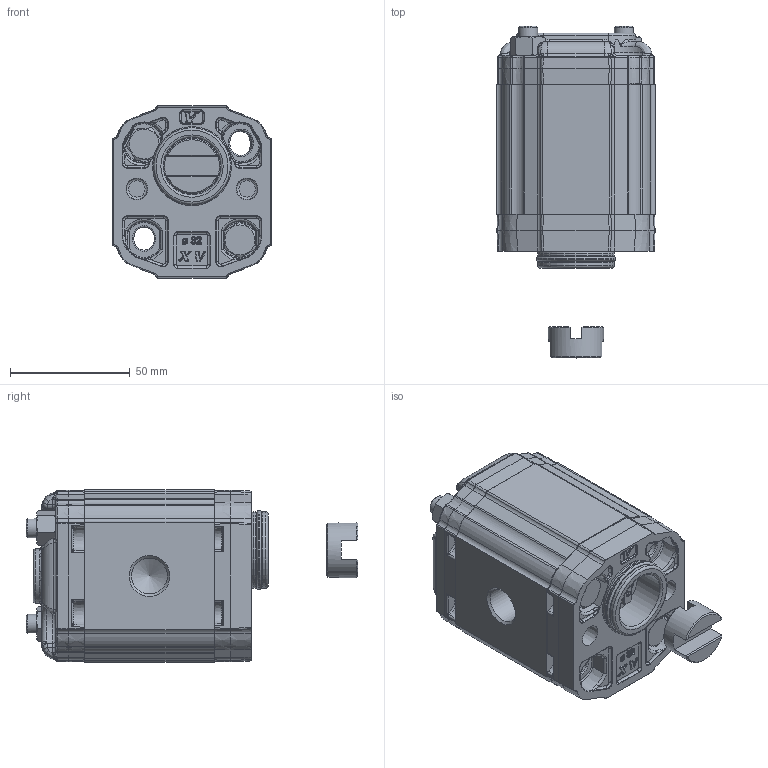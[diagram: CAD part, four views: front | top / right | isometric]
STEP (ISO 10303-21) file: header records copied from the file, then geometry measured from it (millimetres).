
FILE_DESCRIPTION(/* description */ ('Unknown'),/* implementation_level */ '2;1');
FILE_NAME(/* name */ 'X1P2732CBBA',/* time_stamp */ '2026-05-26T18:32:48+02:00',/* author */ ('Unknown'),/* organization */ ('Unknown'),/* preprocessor_version */ 'ST-DEVELOPER v16.7',/* originating_system */ 'Solid Edge',/* authorisation */ 'Unknown');
FILE_SCHEMA (('AUTOMOTIVE_DESIGN {1 0 10303 214 3 1 1}'));
Products named in the file (5): X1P2732CBBA; X1P32; 1C; X1BBH54; XP161-A
Assembly tree (4 placements, depth 2):
  X1P2732CBBA
    X1P32
    1C
    X1BBH54
    XP161-A
Bounding box: 66 x 138.49 x 72 mm (x, y, z)
Volume: 340098.8 mm3; surface area: 67708 mm2
Topology: 5 solids, 6 shells, 2571 faces, 6088 edges, 3567 vertices
Faces by surface type: cylinder 753, bspline 645, plane 567, torus 272, cone 249, sphere 85
Full cylindrical faces by diameter (mm): 1.5 x1, 3.65 x2, 8 x6, 8.5 x3, 9 x2, 10.5 x2, 11.965 x1, 12 x1, 13.107 x1, 14.692 x1, 14.95 x2, 17.135 x1, 19.02 x2, 23 x1, 24 x1, 29.4 x2, 32 x2, 32.96 x1
Entity records: 138657 total; most frequent: CARTESIAN_POINT 65595, ORIENTED_EDGE 11764, DIRECTION 11024, EDGE_CURVE 5882, AXIS2_PLACEMENT_3D 4548, VERTEX_POINT 3518, FACE_BOUND 2788, EDGE_LOOP 2785
